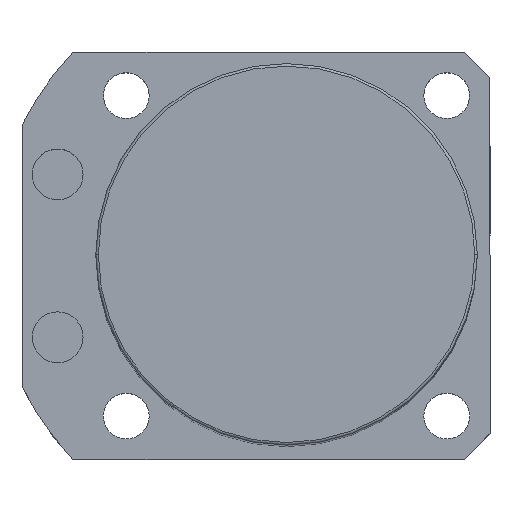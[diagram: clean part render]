
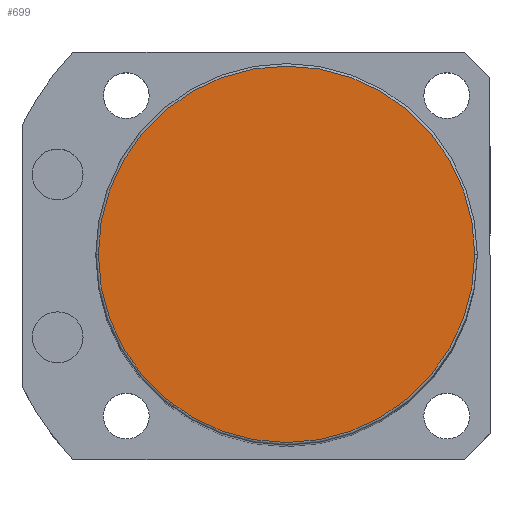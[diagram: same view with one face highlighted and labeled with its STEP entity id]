
A CAD part, top view. The second image highlights one B-rep face of the part: STEP entity #699.
In plain terms, the highlighted planar face has unit normal (0, 0, 1).
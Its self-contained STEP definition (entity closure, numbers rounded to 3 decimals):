
#42 = VERTEX_POINT ( 'NONE', #1700 ) ;
#77 = CIRCLE ( 'NONE', #1547, 37. ) ;
#353 = DIRECTION ( 'NONE',  ( 1., 0., 0. ) ) ;
#428 = ORIENTED_EDGE ( 'NONE', *, *, #1362, .T. ) ;
#667 = DIRECTION ( 'NONE',  ( 0., 0., 1. ) ) ;
#699 = ADVANCED_FACE ( 'NONE', ( #2407 ), #2250, .T. ) ;
#716 = CARTESIAN_POINT ( 'NONE',  ( 0., 0., 190.5 ) ) ;
#743 = CARTESIAN_POINT ( 'NONE',  ( 0., 0., 190.5 ) ) ;
#744 = CARTESIAN_POINT ( 'NONE',  ( -37., 0., 190.5 ) ) ;
#1133 = CARTESIAN_POINT ( 'NONE',  ( 0., 0., 190.5 ) ) ;
#1137 = AXIS2_PLACEMENT_3D ( 'NONE', #1133, #667, #1993 ) ;
#1318 = DIRECTION ( 'NONE',  ( 0., 0., 1. ) ) ;
#1362 = EDGE_CURVE ( 'NONE', #2461, #42, #1449, .T. ) ;
#1426 = EDGE_LOOP ( 'NONE', ( #2217, #428 ) ) ;
#1449 = CIRCLE ( 'NONE', #1460, 37. ) ;
#1460 = AXIS2_PLACEMENT_3D ( 'NONE', #743, #1318, #353 ) ;
#1547 = AXIS2_PLACEMENT_3D ( 'NONE', #716, #2232, #2417 ) ;
#1700 = CARTESIAN_POINT ( 'NONE',  ( 37., 0., 190.5 ) ) ;
#1993 = DIRECTION ( 'NONE',  ( 1., 0., 0. ) ) ;
#2217 = ORIENTED_EDGE ( 'NONE', *, *, #2350, .T. ) ;
#2232 = DIRECTION ( 'NONE',  ( 0., 0., 1. ) ) ;
#2250 = PLANE ( 'NONE',  #1137 ) ;
#2350 = EDGE_CURVE ( 'NONE', #42, #2461, #77, .T. ) ;
#2407 = FACE_OUTER_BOUND ( 'NONE', #1426, .T. ) ;
#2417 = DIRECTION ( 'NONE',  ( 1., 0., 0. ) ) ;
#2461 = VERTEX_POINT ( 'NONE', #744 ) ;
